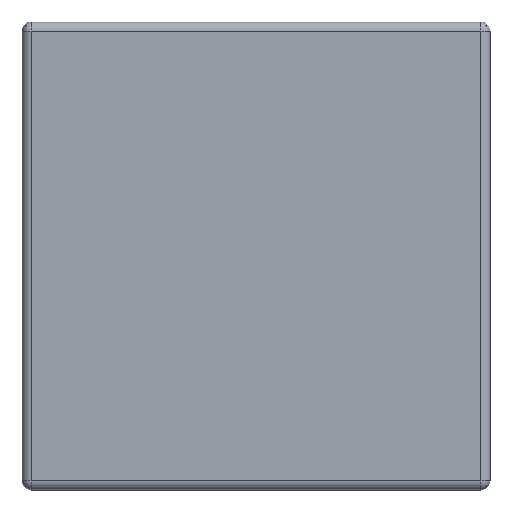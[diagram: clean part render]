
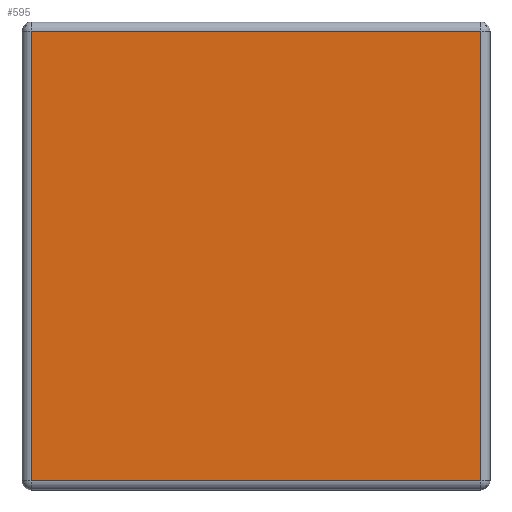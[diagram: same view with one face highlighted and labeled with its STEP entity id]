
A CAD part, front view. The second image highlights one B-rep face of the part: STEP entity #595.
In plain terms, the highlighted planar face has unit normal (0, -1, 0).
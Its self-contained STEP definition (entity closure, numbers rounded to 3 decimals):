
#52=LINE('',#1052,#84);
#53=LINE('',#1053,#85);
#54=LINE('',#1054,#86);
#55=LINE('',#1055,#87);
#84=VECTOR('',#845,1000.);
#85=VECTOR('',#846,1000.);
#86=VECTOR('',#847,1000.);
#87=VECTOR('',#848,1000.);
#105=PLANE('',#690);
#182=ORIENTED_EDGE('',*,*,#330,.T.);
#183=ORIENTED_EDGE('',*,*,#331,.T.);
#184=ORIENTED_EDGE('',*,*,#332,.T.);
#185=ORIENTED_EDGE('',*,*,#333,.T.);
#330=EDGE_CURVE('',#355,#360,#52,.F.);
#331=EDGE_CURVE('',#360,#373,#53,.F.);
#332=EDGE_CURVE('',#373,#368,#54,.F.);
#333=EDGE_CURVE('',#368,#355,#55,.F.);
#355=VERTEX_POINT('',#953);
#360=VERTEX_POINT('',#965);
#368=VERTEX_POINT('',#981);
#373=VERTEX_POINT('',#992);
#471=EDGE_LOOP('',(#182,#183,#184,#185));
#537=FACE_BOUND('',#471,.T.);
#595=ADVANCED_FACE('',(#537),#105,.F.);
#690=AXIS2_PLACEMENT_3D('',#1051,#843,#844);
#843=DIRECTION('',(0.,1.,0.));
#844=DIRECTION('',(0.,0.,1.));
#845=DIRECTION('',(0.,0.,1.));
#846=DIRECTION('',(-1.,0.,0.));
#847=DIRECTION('',(0.,0.,-1.));
#848=DIRECTION('',(1.,0.,0.));
#953=CARTESIAN_POINT('',(-24.415,0.,29.18));
#965=CARTESIAN_POINT('',(-24.415,0.,-19.62));
#981=CARTESIAN_POINT('',(24.385,0.,29.18));
#992=CARTESIAN_POINT('',(24.385,0.,-19.62));
#1051=CARTESIAN_POINT('',(-25.415,0.,30.18));
#1052=CARTESIAN_POINT('',(-24.415,0.,30.18));
#1053=CARTESIAN_POINT('',(-25.415,0.,-19.62));
#1054=CARTESIAN_POINT('',(24.385,0.,30.18));
#1055=CARTESIAN_POINT('',(-25.415,0.,29.18));
